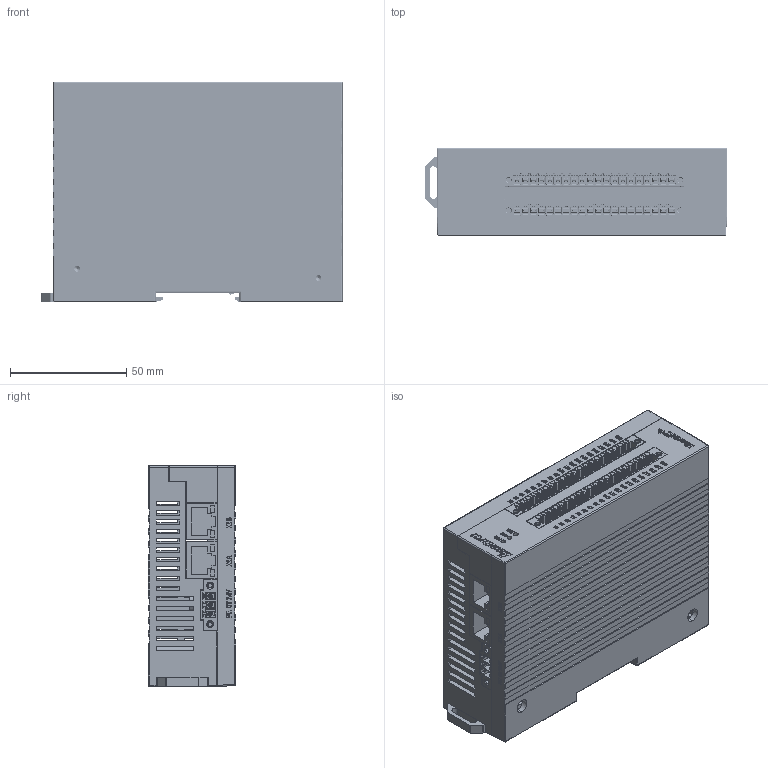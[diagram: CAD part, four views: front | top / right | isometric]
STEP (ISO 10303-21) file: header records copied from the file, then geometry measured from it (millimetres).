
FILE_DESCRIPTION (( 'STEP AP203' ), '1' );
FILE_NAME ('3D芞祧-B倰植桴 V2.0.STEP', '2023-07-11T07:28:28', ( 'Microsoft' ), ( 'Microsoft' ), 'SwSTEP 2.0', 'SolidWorks 2020', '' );
FILE_SCHEMA (( 'CONFIG_CONTROL_DESIGN' ));
Length unit declared in the file: millimetre
Products named in the file (7): 3D芞祧-B倰植桴 V2.0; 0225-11XX 脣釱 dinkle_0225-1120; 狟褲; 从站B型V1.0 上壳 方案一; 境啣 源偶珨; 从站B型V1.0 下板 方案一; ECH381RM-XXP 脣釱 dinkle_ech381rm-03p
Assembly tree (7 placements, depth 2):
  3D芞祧-B倰植桴 V2.0
    从站B型V1.0 下板 方案一
    狟褲
    从站B型V1.0 上壳 方案一
    境啣 源偶珨
    ECH381RM-XXP 脣釱 dinkle_ech381rm-03p
    0225-11XX 脣釱 dinkle_0225-1120  x2
Bounding box: 130 x 37.8 x 95.1 mm (x, y, z)
Volume: 105470.7 mm3; surface area: 107705.9 mm2
Topology: 18 solids, 58 shells, 9003 faces, 23544 edges, 15157 vertices
Faces by surface type: plane 6604, cylinder 1240, bspline 930, cone 207, torus 22
Entity records: 245643 total; most frequent: CARTESIAN_POINT 100447, ORIENTED_EDGE 31664, DIRECTION 26303, EDGE_CURVE 15832, VECTOR 12675, LINE 12675, VERTEX_POINT 10263, AXIS2_PLACEMENT_3D 6814
